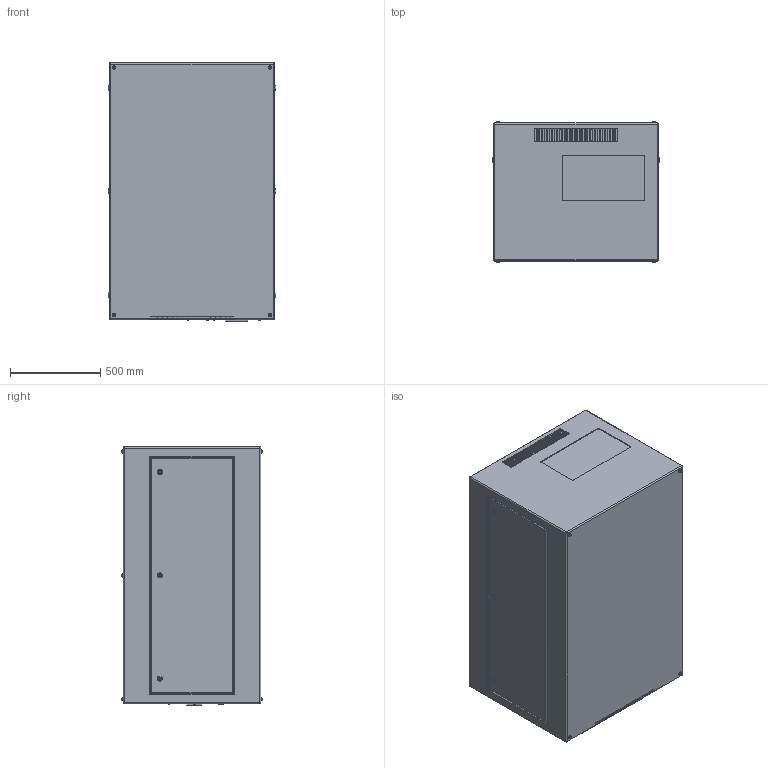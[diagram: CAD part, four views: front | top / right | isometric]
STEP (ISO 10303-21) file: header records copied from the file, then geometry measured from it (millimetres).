
FILE_DESCRIPTION (( 'STEP AP214' ), '1' );
FILE_NAME ('Zen 57.310.L R11.STEP', '2022-09-15T21:16:35', ( '' ), ( '' ), 'SwSTEP 2.0', 'SolidWorks 2020', '' );
FILE_SCHEMA (( 'AUTOMOTIVE_DESIGN' ));
Length unit declared in the file: inch
Products named in the file (1): Zen 57.310.L R11
Bounding box: 927.1 x 776.68 x 1430.02 mm (x, y, z)
Volume: 989481994.2 mm3; surface area: 6543499.3 mm2
Topology: 1 solids, 7 shells, 1134 faces, 2856 edges, 1758 vertices
Faces by surface type: plane 518, cylinder 490, sphere 74, torus 52
Entity records: 37560 total; most frequent: CARTESIAN_POINT 6275, DIRECTION 5988, ORIENTED_EDGE 5564, EDGE_CURVE 2782, AXIS2_PLACEMENT_3D 2167, VERTEX_POINT 1758, LINE 1654, VECTOR 1654
